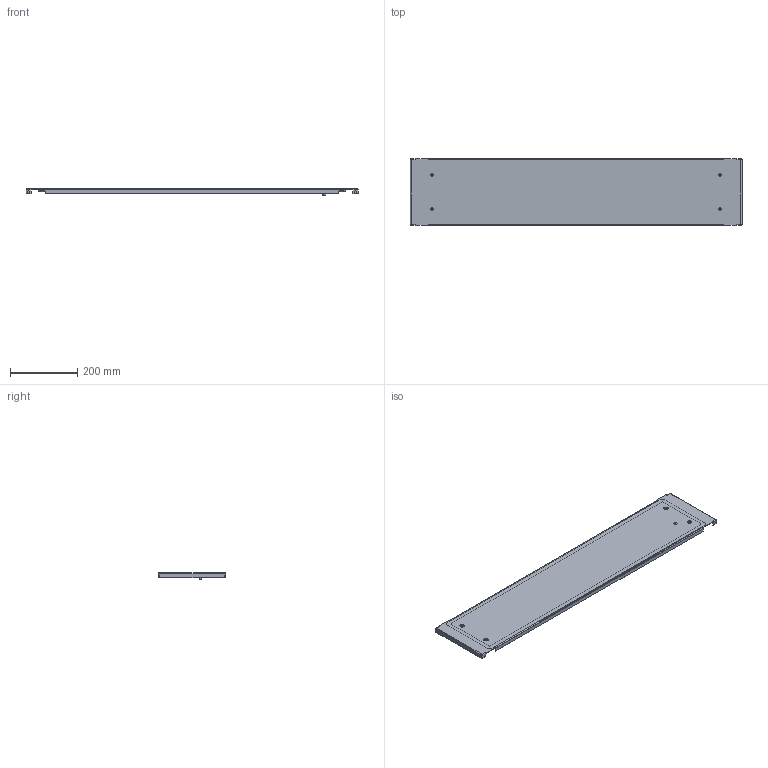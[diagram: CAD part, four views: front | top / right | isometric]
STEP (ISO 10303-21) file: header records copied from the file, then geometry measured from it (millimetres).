
FILE_DESCRIPTION (( 'STEP AP203' ), '1' );
FILE_NAME ('ESB-S-1-PLG-200-1000_Ïàíåëü ëèöåâàÿ 200õ1000.step', '2026-06-25T07:55:39', ( '' ), ( '' ), 'SwSTEP 2.0', 'SolidWorks 2020', '' );
FILE_SCHEMA (( 'CONFIG_CONTROL_DESIGN' ));
Length unit declared in the file: millimetre
Products named in the file (5): Ïàíåëü ãëóõàÿ 200õ1000; Øïèëüêà ïðèâàðíàÿ îìåäíåííàÿ ñ øèðîêèì îñíîâàíèåì M8_Œ8å15; Ïàíåëü ãëóõàÿ ñî øïèëüêîé 200õ1000; Óïëîòíèòåëü ãëóõîé ïàíåëè 200õ1000; ESB-S-1-PLG-200-1000_Ïàíåëü ëèöåâàÿ 200õ1000
Assembly tree (4 placements, depth 3):
  ESB-S-1-PLG-200-1000_Ïàíåëü ëèöåâàÿ 200õ1000
    Ïàíåëü ãëóõàÿ ñî øïèëüêîé 200õ1000
      Ïàíåëü ãëóõàÿ 200õ1000
      Øïèëüêà ïðèâàðíàÿ îìåäíåííàÿ ñ øèðîêèì îñíîâàíèåì M8_Œ8å15
    Óïëîòíèòåëü ãëóõîé ïàíåëè 200õ1000
Bounding box: 986.4 x 197 x 18.9 mm (x, y, z)
Volume: 459368.9 mm3; surface area: 514474.8 mm2
Topology: 3 solids, 3 shells, 184 faces, 433 edges, 262 vertices
Faces by surface type: plane 109, cylinder 67, bspline 8
Entity records: 6248 total; most frequent: CARTESIAN_POINT 1529, ORIENTED_EDGE 866, DIRECTION 863, EDGE_CURVE 433, LINE 295, VECTOR 295, AXIS2_PLACEMENT_3D 284, VERTEX_POINT 262
